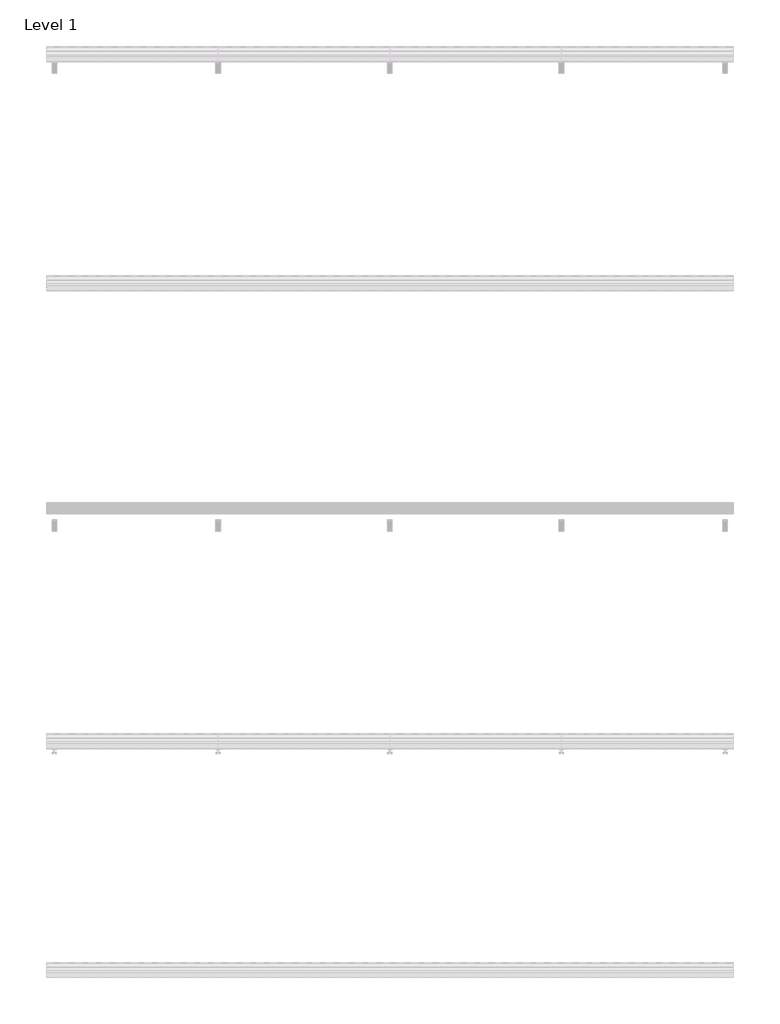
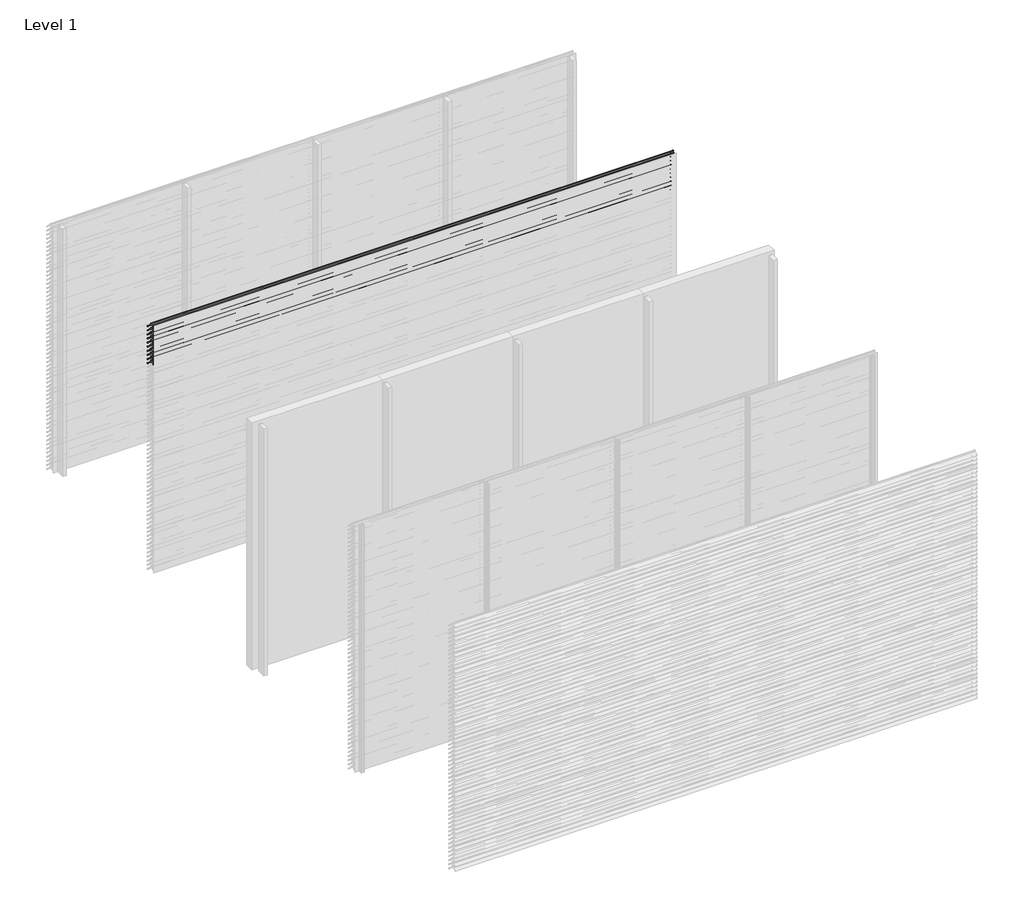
# One storey, part 54 of 173: 18 proxies.
"""IFC4 building model written with IfcOpenShell, lengths in millimetres."""

from ifc_helpers import new_model, si_unit, point, frame, frame_2d, origin, place, context, project, spatial, polyline, circle_curve, trimmed, segment, composite_curve, outline, extrude, element, save

model = new_model("IFC4")

# Units and contexts
model_context = context("Model", 3, world=origin())
ifc_project = project(units=[si_unit("LENGTHUNIT", "METRE", prefix="MILLI")], contexts=[model_context])

# Site, building, storey
site = spatial("IfcSite", under=ifc_project)
building = spatial("IfcBuilding", under=site)
storey = spatial("IfcBuildingStorey", under=building, Name="Level 1", Elevation=0.0)

# Proxies
placement = place(None, origin())
element("IfcBuildingElementProxy", 1, Name="Wall Sweeps", at=placement, inside=storey, context=model_context, shape_type="SweptSolid", body=[
    extrude(outline(composite_curve([segment(polyline([(-37998.0, 2959.1474905), (-37998.0, 2961.6227417)]), True, "CONTINUOUS"), segment(trimmed(circle_curve(frame_2d((-37951.2682172, 2916.2200208)), 65.1557103), [point((-37998.0, 2961.6227417))], [point((-37954.4014323, 2981.3003524))], False, "CARTESIAN"), True, "CONTINUOUS"), segment(polyline([(-37954.4014323, 2981.3003524), (-37934.8315836, 2981.3003524)]), True, "CONTINUOUS"), segment(trimmed(circle_curve(frame_2d((-37732.7329489, 3128.5533172)), 250.0545817), [point((-37934.8315836, 2981.3003524))], [point((-37941.4452143, 2990.8344583))], False, "CARTESIAN"), True, "CONTINUOUS"), segment(trimmed(circle_curve(frame_2d((-37953.2981792, 2985.1737835)), 13.1352966), [point((-37941.4452143, 2990.8344583))], [point((-37953.8171475, 2998.298824))], True, "CARTESIAN"), True, "CONTINUOUS"), segment(polyline([(-37953.8171475, 2998.298824), (-37953.8171475, 3000.0)]), True, "CONTINUOUS"), segment(trimmed(circle_curve(frame_2d((-37953.2981792, 2985.1737835)), 14.8352966), [point((-37953.8171475, 3000.0))], [point((-37939.9637661, 2991.6760487))], False, "CARTESIAN"), True, "CONTINUOUS"), segment(trimmed(circle_curve(frame_2d((-37732.7329489, 3128.5533172)), 248.3545817), [point((-37939.9637661, 2991.6760487))], [point((-37873.8787895, 2924.2059416))], True, "CARTESIAN"), True, "CONTINUOUS"), segment(trimmed(circle_curve(frame_2d((-37883.8147537, 2911.6649442)), 16.0), [point((-37873.8787895, 2924.2059416))], [point((-37867.8648347, 2910.4))], False, "CARTESIAN"), True, "CONTINUOUS"), segment(polyline([(-37867.8648347, 2910.4), (-37869.6712069, 2910.4)]), True, "CONTINUOUS"), segment(trimmed(circle_curve(frame_2d((-37883.8147537, 2911.6649442)), 14.2), [point((-37869.6712069, 2910.4))], [point((-37874.9518628, 2922.7594998))], True, "CARTESIAN"), True, "CONTINUOUS"), segment(trimmed(circle_curve(frame_2d((-37732.7329489, 3128.5533172)), 250.1545817), [point((-37874.9518628, 2922.7594998))], [point((-37933.7064024, 2979.6003524))], False, "CARTESIAN"), True, "CONTINUOUS"), segment(polyline([(-37933.7064024, 2979.6003524), (-37954.3602632, 2979.6003524)]), True, "CONTINUOUS"), segment(trimmed(circle_curve(frame_2d((-37951.2682172, 2916.2200208)), 63.4557103), [point((-37954.3602632, 2979.6003524))], [point((-37998.0, 2959.1474905))], True, "CARTESIAN"), True, "CONTINUOUS")], self_intersect=False)), frame((0.0, 0.0, 0.0), z_axis=(1.0, 0.0, 0.0), x_axis=(0.0, 1.0, 0.0)), (0.0, 0.0, 1.0), 6000.0),
])
element("IfcBuildingElementProxy", 2, Name="Wall Sweeps", at=placement, inside=storey, context=model_context, shape_type="SweptSolid", body=[
    extrude(outline(composite_curve([segment(polyline([(-37998.0, 2909.1474905), (-37998.0, 2911.6227417)]), True, "CONTINUOUS"), segment(trimmed(circle_curve(frame_2d((-37951.2682172, 2866.2200208)), 65.1557103), [point((-37998.0, 2911.6227417))], [point((-37954.4014323, 2931.3003524))], False, "CARTESIAN"), True, "CONTINUOUS"), segment(polyline([(-37954.4014323, 2931.3003524), (-37934.8315836, 2931.3003524)]), True, "CONTINUOUS"), segment(trimmed(circle_curve(frame_2d((-37732.7329489, 3078.5533172)), 250.0545817), [point((-37934.8315836, 2931.3003524))], [point((-37941.4452143, 2940.8344583))], False, "CARTESIAN"), True, "CONTINUOUS"), segment(trimmed(circle_curve(frame_2d((-37953.2981792, 2935.1737835)), 13.1352966), [point((-37941.4452143, 2940.8344583))], [point((-37953.8171475, 2948.298824))], True, "CARTESIAN"), True, "CONTINUOUS"), segment(polyline([(-37953.8171475, 2948.298824), (-37953.8171475, 2950.0)]), True, "CONTINUOUS"), segment(trimmed(circle_curve(frame_2d((-37953.2981792, 2935.1737835)), 14.8352966), [point((-37953.8171475, 2950.0))], [point((-37939.9637661, 2941.6760487))], False, "CARTESIAN"), True, "CONTINUOUS"), segment(trimmed(circle_curve(frame_2d((-37732.7329489, 3078.5533172)), 248.3545817), [point((-37939.9637661, 2941.6760487))], [point((-37873.8787895, 2874.2059416))], True, "CARTESIAN"), True, "CONTINUOUS"), segment(trimmed(circle_curve(frame_2d((-37883.8147537, 2861.6649442)), 16.0), [point((-37873.8787895, 2874.2059416))], [point((-37867.8648347, 2860.4))], False, "CARTESIAN"), True, "CONTINUOUS"), segment(polyline([(-37867.8648347, 2860.4), (-37869.6712069, 2860.4)]), True, "CONTINUOUS"), segment(trimmed(circle_curve(frame_2d((-37883.8147537, 2861.6649442)), 14.2), [point((-37869.6712069, 2860.4))], [point((-37874.9518628, 2872.7594998))], True, "CARTESIAN"), True, "CONTINUOUS"), segment(trimmed(circle_curve(frame_2d((-37732.7329489, 3078.5533172)), 250.1545817), [point((-37874.9518628, 2872.7594998))], [point((-37933.7064024, 2929.6003524))], False, "CARTESIAN"), True, "CONTINUOUS"), segment(polyline([(-37933.7064024, 2929.6003524), (-37954.3602632, 2929.6003524)]), True, "CONTINUOUS"), segment(trimmed(circle_curve(frame_2d((-37951.2682172, 2866.2200208)), 63.4557103), [point((-37954.3602632, 2929.6003524))], [point((-37998.0, 2909.1474905))], True, "CARTESIAN"), True, "CONTINUOUS")], self_intersect=False)), frame((0.0, 0.0, 0.0), z_axis=(1.0, 0.0, 0.0), x_axis=(0.0, 1.0, 0.0)), (0.0, 0.0, 1.0), 6000.0),
])
element("IfcBuildingElementProxy", 3, Name="Wall Sweeps", at=placement, inside=storey, context=model_context, shape_type="SweptSolid", body=[
    extrude(outline(composite_curve([segment(polyline([(-37998.0, 2859.1474905), (-37998.0, 2861.6227417)]), True, "CONTINUOUS"), segment(trimmed(circle_curve(frame_2d((-37951.2682172, 2816.2200208)), 65.1557103), [point((-37998.0, 2861.6227417))], [point((-37954.4014323, 2881.3003524))], False, "CARTESIAN"), True, "CONTINUOUS"), segment(polyline([(-37954.4014323, 2881.3003524), (-37934.8315836, 2881.3003524)]), True, "CONTINUOUS"), segment(trimmed(circle_curve(frame_2d((-37732.7329489, 3028.5533172)), 250.0545817), [point((-37934.8315836, 2881.3003524))], [point((-37941.4452143, 2890.8344583))], False, "CARTESIAN"), True, "CONTINUOUS"), segment(trimmed(circle_curve(frame_2d((-37953.2981792, 2885.1737835)), 13.1352966), [point((-37941.4452143, 2890.8344583))], [point((-37953.8171475, 2898.298824))], True, "CARTESIAN"), True, "CONTINUOUS"), segment(polyline([(-37953.8171475, 2898.298824), (-37953.8171475, 2900.0)]), True, "CONTINUOUS"), segment(trimmed(circle_curve(frame_2d((-37953.2981792, 2885.1737835)), 14.8352966), [point((-37953.8171475, 2900.0))], [point((-37939.9637661, 2891.6760487))], False, "CARTESIAN"), True, "CONTINUOUS"), segment(trimmed(circle_curve(frame_2d((-37732.7329489, 3028.5533172)), 248.3545817), [point((-37939.9637661, 2891.6760487))], [point((-37873.8787895, 2824.2059416))], True, "CARTESIAN"), True, "CONTINUOUS"), segment(trimmed(circle_curve(frame_2d((-37883.8147537, 2811.6649442)), 16.0), [point((-37873.8787895, 2824.2059416))], [point((-37867.8648347, 2810.4))], False, "CARTESIAN"), True, "CONTINUOUS"), segment(polyline([(-37867.8648347, 2810.4), (-37869.6712069, 2810.4)]), True, "CONTINUOUS"), segment(trimmed(circle_curve(frame_2d((-37883.8147537, 2811.6649442)), 14.2), [point((-37869.6712069, 2810.4))], [point((-37874.9518628, 2822.7594998))], True, "CARTESIAN"), True, "CONTINUOUS"), segment(trimmed(circle_curve(frame_2d((-37732.7329489, 3028.5533172)), 250.1545817), [point((-37874.9518628, 2822.7594998))], [point((-37933.7064024, 2879.6003524))], False, "CARTESIAN"), True, "CONTINUOUS"), segment(polyline([(-37933.7064024, 2879.6003524), (-37954.3602632, 2879.6003524)]), True, "CONTINUOUS"), segment(trimmed(circle_curve(frame_2d((-37951.2682172, 2816.2200208)), 63.4557103), [point((-37954.3602632, 2879.6003524))], [point((-37998.0, 2859.1474905))], True, "CARTESIAN"), True, "CONTINUOUS")], self_intersect=False)), frame((0.0, 0.0, 0.0), z_axis=(1.0, 0.0, 0.0), x_axis=(0.0, 1.0, 0.0)), (0.0, 0.0, 1.0), 6000.0),
])
element("IfcBuildingElementProxy", 4, Name="Wall Sweeps", at=placement, inside=storey, context=model_context, shape_type="SweptSolid", body=[
    extrude(outline(composite_curve([segment(polyline([(-37998.0, 2809.1474905), (-37998.0, 2811.6227417)]), True, "CONTINUOUS"), segment(trimmed(circle_curve(frame_2d((-37951.2682172, 2766.2200208)), 65.1557103), [point((-37998.0, 2811.6227417))], [point((-37954.4014323, 2831.3003524))], False, "CARTESIAN"), True, "CONTINUOUS"), segment(polyline([(-37954.4014323, 2831.3003524), (-37934.8315836, 2831.3003524)]), True, "CONTINUOUS"), segment(trimmed(circle_curve(frame_2d((-37732.7329489, 2978.5533172)), 250.0545817), [point((-37934.8315836, 2831.3003524))], [point((-37941.4452143, 2840.8344583))], False, "CARTESIAN"), True, "CONTINUOUS"), segment(trimmed(circle_curve(frame_2d((-37953.2981792, 2835.1737835)), 13.1352966), [point((-37941.4452143, 2840.8344583))], [point((-37953.8171475, 2848.298824))], True, "CARTESIAN"), True, "CONTINUOUS"), segment(polyline([(-37953.8171475, 2848.298824), (-37953.8171475, 2850.0)]), True, "CONTINUOUS"), segment(trimmed(circle_curve(frame_2d((-37953.2981792, 2835.1737835)), 14.8352966), [point((-37953.8171475, 2850.0))], [point((-37939.9637661, 2841.6760487))], False, "CARTESIAN"), True, "CONTINUOUS"), segment(trimmed(circle_curve(frame_2d((-37732.7329489, 2978.5533172)), 248.3545817), [point((-37939.9637661, 2841.6760487))], [point((-37873.8787895, 2774.2059416))], True, "CARTESIAN"), True, "CONTINUOUS"), segment(trimmed(circle_curve(frame_2d((-37883.8147537, 2761.6649442)), 16.0), [point((-37873.8787895, 2774.2059416))], [point((-37867.8648347, 2760.4))], False, "CARTESIAN"), True, "CONTINUOUS"), segment(polyline([(-37867.8648347, 2760.4), (-37869.6712069, 2760.4)]), True, "CONTINUOUS"), segment(trimmed(circle_curve(frame_2d((-37883.8147537, 2761.6649442)), 14.2), [point((-37869.6712069, 2760.4))], [point((-37874.9518628, 2772.7594998))], True, "CARTESIAN"), True, "CONTINUOUS"), segment(trimmed(circle_curve(frame_2d((-37732.7329489, 2978.5533172)), 250.1545817), [point((-37874.9518628, 2772.7594998))], [point((-37933.7064024, 2829.6003524))], False, "CARTESIAN"), True, "CONTINUOUS"), segment(polyline([(-37933.7064024, 2829.6003524), (-37954.3602632, 2829.6003524)]), True, "CONTINUOUS"), segment(trimmed(circle_curve(frame_2d((-37951.2682172, 2766.2200208)), 63.4557103), [point((-37954.3602632, 2829.6003524))], [point((-37998.0, 2809.1474905))], True, "CARTESIAN"), True, "CONTINUOUS")], self_intersect=False)), frame((0.0, 0.0, 0.0), z_axis=(1.0, 0.0, 0.0), x_axis=(0.0, 1.0, 0.0)), (0.0, 0.0, 1.0), 6000.0),
])
element("IfcBuildingElementProxy", 5, Name="Wall Sweeps", at=placement, inside=storey, context=model_context, shape_type="SweptSolid", body=[
    extrude(outline(composite_curve([segment(polyline([(-37998.0, 2759.1474905), (-37998.0, 2761.6227417)]), True, "CONTINUOUS"), segment(trimmed(circle_curve(frame_2d((-37951.2682172, 2716.2200208)), 65.1557103), [point((-37998.0, 2761.6227417))], [point((-37954.4014323, 2781.3003524))], False, "CARTESIAN"), True, "CONTINUOUS"), segment(polyline([(-37954.4014323, 2781.3003524), (-37934.8315836, 2781.3003524)]), True, "CONTINUOUS"), segment(trimmed(circle_curve(frame_2d((-37732.7329489, 2928.5533172)), 250.0545817), [point((-37934.8315836, 2781.3003524))], [point((-37941.4452143, 2790.8344583))], False, "CARTESIAN"), True, "CONTINUOUS"), segment(trimmed(circle_curve(frame_2d((-37953.2981792, 2785.1737835)), 13.1352966), [point((-37941.4452143, 2790.8344583))], [point((-37953.8171475, 2798.298824))], True, "CARTESIAN"), True, "CONTINUOUS"), segment(polyline([(-37953.8171475, 2798.298824), (-37953.8171475, 2800.0)]), True, "CONTINUOUS"), segment(trimmed(circle_curve(frame_2d((-37953.2981792, 2785.1737835)), 14.8352966), [point((-37953.8171475, 2800.0))], [point((-37939.9637661, 2791.6760487))], False, "CARTESIAN"), True, "CONTINUOUS"), segment(trimmed(circle_curve(frame_2d((-37732.7329489, 2928.5533172)), 248.3545817), [point((-37939.9637661, 2791.6760487))], [point((-37873.8787895, 2724.2059416))], True, "CARTESIAN"), True, "CONTINUOUS"), segment(trimmed(circle_curve(frame_2d((-37883.8147537, 2711.6649442)), 16.0), [point((-37873.8787895, 2724.2059416))], [point((-37867.8648347, 2710.4))], False, "CARTESIAN"), True, "CONTINUOUS"), segment(polyline([(-37867.8648347, 2710.4), (-37869.6712069, 2710.4)]), True, "CONTINUOUS"), segment(trimmed(circle_curve(frame_2d((-37883.8147537, 2711.6649442)), 14.2), [point((-37869.6712069, 2710.4))], [point((-37874.9518628, 2722.7594998))], True, "CARTESIAN"), True, "CONTINUOUS"), segment(trimmed(circle_curve(frame_2d((-37732.7329489, 2928.5533172)), 250.1545817), [point((-37874.9518628, 2722.7594998))], [point((-37933.7064024, 2779.6003524))], False, "CARTESIAN"), True, "CONTINUOUS"), segment(polyline([(-37933.7064024, 2779.6003524), (-37954.3602632, 2779.6003524)]), True, "CONTINUOUS"), segment(trimmed(circle_curve(frame_2d((-37951.2682172, 2716.2200208)), 63.4557103), [point((-37954.3602632, 2779.6003524))], [point((-37998.0, 2759.1474905))], True, "CARTESIAN"), True, "CONTINUOUS")], self_intersect=False)), frame((0.0, 0.0, 0.0), z_axis=(1.0, 0.0, 0.0), x_axis=(0.0, 1.0, 0.0)), (0.0, 0.0, 1.0), 6000.0),
])
element("IfcBuildingElementProxy", 6, Name="Wall Sweeps", at=placement, inside=storey, context=model_context, shape_type="SweptSolid", body=[
    extrude(outline(composite_curve([segment(polyline([(-37998.0, 2709.1474905), (-37998.0, 2711.6227417)]), True, "CONTINUOUS"), segment(trimmed(circle_curve(frame_2d((-37951.2682172, 2666.2200208)), 65.1557103), [point((-37998.0, 2711.6227417))], [point((-37954.4014323, 2731.3003524))], False, "CARTESIAN"), True, "CONTINUOUS"), segment(polyline([(-37954.4014323, 2731.3003524), (-37934.8315836, 2731.3003524)]), True, "CONTINUOUS"), segment(trimmed(circle_curve(frame_2d((-37732.7329489, 2878.5533172)), 250.0545817), [point((-37934.8315836, 2731.3003524))], [point((-37941.4452143, 2740.8344583))], False, "CARTESIAN"), True, "CONTINUOUS"), segment(trimmed(circle_curve(frame_2d((-37953.2981792, 2735.1737835)), 13.1352966), [point((-37941.4452143, 2740.8344583))], [point((-37953.8171475, 2748.298824))], True, "CARTESIAN"), True, "CONTINUOUS"), segment(polyline([(-37953.8171475, 2748.298824), (-37953.8171475, 2750.0)]), True, "CONTINUOUS"), segment(trimmed(circle_curve(frame_2d((-37953.2981792, 2735.1737835)), 14.8352966), [point((-37953.8171475, 2750.0))], [point((-37939.9637661, 2741.6760487))], False, "CARTESIAN"), True, "CONTINUOUS"), segment(trimmed(circle_curve(frame_2d((-37732.7329489, 2878.5533172)), 248.3545817), [point((-37939.9637661, 2741.6760487))], [point((-37873.8787895, 2674.2059416))], True, "CARTESIAN"), True, "CONTINUOUS"), segment(trimmed(circle_curve(frame_2d((-37883.8147537, 2661.6649442)), 16.0), [point((-37873.8787895, 2674.2059416))], [point((-37867.8648347, 2660.4))], False, "CARTESIAN"), True, "CONTINUOUS"), segment(polyline([(-37867.8648347, 2660.4), (-37869.6712069, 2660.4)]), True, "CONTINUOUS"), segment(trimmed(circle_curve(frame_2d((-37883.8147537, 2661.6649442)), 14.2), [point((-37869.6712069, 2660.4))], [point((-37874.9518628, 2672.7594998))], True, "CARTESIAN"), True, "CONTINUOUS"), segment(trimmed(circle_curve(frame_2d((-37732.7329489, 2878.5533172)), 250.1545817), [point((-37874.9518628, 2672.7594998))], [point((-37933.7064024, 2729.6003524))], False, "CARTESIAN"), True, "CONTINUOUS"), segment(polyline([(-37933.7064024, 2729.6003524), (-37954.3602632, 2729.6003524)]), True, "CONTINUOUS"), segment(trimmed(circle_curve(frame_2d((-37951.2682172, 2666.2200208)), 63.4557103), [point((-37954.3602632, 2729.6003524))], [point((-37998.0, 2709.1474905))], True, "CARTESIAN"), True, "CONTINUOUS")], self_intersect=False)), frame((0.0, 0.0, 0.0), z_axis=(1.0, 0.0, 0.0), x_axis=(0.0, 1.0, 0.0)), (0.0, 0.0, 1.0), 6000.0),
])
element("IfcBuildingElementProxy", 7, Name="Wall Sweeps", at=placement, inside=storey, context=model_context, shape_type="SweptSolid", body=[
    extrude(outline(composite_curve([segment(polyline([(-37998.0, 2659.1474905), (-37998.0, 2661.6227417)]), True, "CONTINUOUS"), segment(trimmed(circle_curve(frame_2d((-37951.2682172, 2616.2200208)), 65.1557103), [point((-37998.0, 2661.6227417))], [point((-37954.4014323, 2681.3003524))], False, "CARTESIAN"), True, "CONTINUOUS"), segment(polyline([(-37954.4014323, 2681.3003524), (-37934.8315836, 2681.3003524)]), True, "CONTINUOUS"), segment(trimmed(circle_curve(frame_2d((-37732.7329489, 2828.5533172)), 250.0545817), [point((-37934.8315836, 2681.3003524))], [point((-37941.4452143, 2690.8344583))], False, "CARTESIAN"), True, "CONTINUOUS"), segment(trimmed(circle_curve(frame_2d((-37953.2981792, 2685.1737835)), 13.1352966), [point((-37941.4452143, 2690.8344583))], [point((-37953.8171475, 2698.298824))], True, "CARTESIAN"), True, "CONTINUOUS"), segment(polyline([(-37953.8171475, 2698.298824), (-37953.8171475, 2700.0)]), True, "CONTINUOUS"), segment(trimmed(circle_curve(frame_2d((-37953.2981792, 2685.1737835)), 14.8352966), [point((-37953.8171475, 2700.0))], [point((-37939.9637661, 2691.6760487))], False, "CARTESIAN"), True, "CONTINUOUS"), segment(trimmed(circle_curve(frame_2d((-37732.7329489, 2828.5533172)), 248.3545817), [point((-37939.9637661, 2691.6760487))], [point((-37873.8787895, 2624.2059416))], True, "CARTESIAN"), True, "CONTINUOUS"), segment(trimmed(circle_curve(frame_2d((-37883.8147537, 2611.6649442)), 16.0), [point((-37873.8787895, 2624.2059416))], [point((-37867.8648347, 2610.4))], False, "CARTESIAN"), True, "CONTINUOUS"), segment(polyline([(-37867.8648347, 2610.4), (-37869.6712069, 2610.4)]), True, "CONTINUOUS"), segment(trimmed(circle_curve(frame_2d((-37883.8147537, 2611.6649442)), 14.2), [point((-37869.6712069, 2610.4))], [point((-37874.9518628, 2622.7594998))], True, "CARTESIAN"), True, "CONTINUOUS"), segment(trimmed(circle_curve(frame_2d((-37732.7329489, 2828.5533172)), 250.1545817), [point((-37874.9518628, 2622.7594998))], [point((-37933.7064024, 2679.6003524))], False, "CARTESIAN"), True, "CONTINUOUS"), segment(polyline([(-37933.7064024, 2679.6003524), (-37954.3602632, 2679.6003524)]), True, "CONTINUOUS"), segment(trimmed(circle_curve(frame_2d((-37951.2682172, 2616.2200208)), 63.4557103), [point((-37954.3602632, 2679.6003524))], [point((-37998.0, 2659.1474905))], True, "CARTESIAN"), True, "CONTINUOUS")], self_intersect=False)), frame((0.0, 0.0, 0.0), z_axis=(1.0, 0.0, 0.0), x_axis=(0.0, 1.0, 0.0)), (0.0, 0.0, 1.0), 6000.0),
])
element("IfcBuildingElementProxy", 8, Name="Wall Sweeps", at=placement, inside=storey, context=model_context, shape_type="SweptSolid", body=[
    extrude(outline(composite_curve([segment(polyline([(-37998.0, 2609.1474905), (-37998.0, 2611.6227417)]), True, "CONTINUOUS"), segment(trimmed(circle_curve(frame_2d((-37951.2682172, 2566.2200208)), 65.1557103), [point((-37998.0, 2611.6227417))], [point((-37954.4014323, 2631.3003524))], False, "CARTESIAN"), True, "CONTINUOUS"), segment(polyline([(-37954.4014323, 2631.3003524), (-37934.8315836, 2631.3003524)]), True, "CONTINUOUS"), segment(trimmed(circle_curve(frame_2d((-37732.7329489, 2778.5533172)), 250.0545817), [point((-37934.8315836, 2631.3003524))], [point((-37941.4452143, 2640.8344583))], False, "CARTESIAN"), True, "CONTINUOUS"), segment(trimmed(circle_curve(frame_2d((-37953.2981792, 2635.1737835)), 13.1352966), [point((-37941.4452143, 2640.8344583))], [point((-37953.8171475, 2648.298824))], True, "CARTESIAN"), True, "CONTINUOUS"), segment(polyline([(-37953.8171475, 2648.298824), (-37953.8171475, 2650.0)]), True, "CONTINUOUS"), segment(trimmed(circle_curve(frame_2d((-37953.2981792, 2635.1737835)), 14.8352966), [point((-37953.8171475, 2650.0))], [point((-37939.9637661, 2641.6760487))], False, "CARTESIAN"), True, "CONTINUOUS"), segment(trimmed(circle_curve(frame_2d((-37732.7329489, 2778.5533172)), 248.3545817), [point((-37939.9637661, 2641.6760487))], [point((-37873.8787895, 2574.2059416))], True, "CARTESIAN"), True, "CONTINUOUS"), segment(trimmed(circle_curve(frame_2d((-37883.8147537, 2561.6649442)), 16.0), [point((-37873.8787895, 2574.2059416))], [point((-37867.8648347, 2560.4))], False, "CARTESIAN"), True, "CONTINUOUS"), segment(polyline([(-37867.8648347, 2560.4), (-37869.6712069, 2560.4)]), True, "CONTINUOUS"), segment(trimmed(circle_curve(frame_2d((-37883.8147537, 2561.6649442)), 14.2), [point((-37869.6712069, 2560.4))], [point((-37874.9518628, 2572.7594998))], True, "CARTESIAN"), True, "CONTINUOUS"), segment(trimmed(circle_curve(frame_2d((-37732.7329489, 2778.5533172)), 250.1545817), [point((-37874.9518628, 2572.7594998))], [point((-37933.7064024, 2629.6003524))], False, "CARTESIAN"), True, "CONTINUOUS"), segment(polyline([(-37933.7064024, 2629.6003524), (-37954.3602632, 2629.6003524)]), True, "CONTINUOUS"), segment(trimmed(circle_curve(frame_2d((-37951.2682172, 2566.2200208)), 63.4557103), [point((-37954.3602632, 2629.6003524))], [point((-37998.0, 2609.1474905))], True, "CARTESIAN"), True, "CONTINUOUS")], self_intersect=False)), frame((0.0, 0.0, 0.0), z_axis=(1.0, 0.0, 0.0), x_axis=(0.0, 1.0, 0.0)), (0.0, 0.0, 1.0), 6000.0),
])
element("IfcBuildingElementProxy", 9, Name="Wall Sweeps", at=placement, inside=storey, context=model_context, shape_type="SweptSolid", body=[
    extrude(outline(composite_curve([segment(polyline([(-37998.0, 2559.1474905), (-37998.0, 2561.6227417)]), True, "CONTINUOUS"), segment(trimmed(circle_curve(frame_2d((-37951.2682172, 2516.2200208)), 65.1557103), [point((-37998.0, 2561.6227417))], [point((-37954.4014323, 2581.3003524))], False, "CARTESIAN"), True, "CONTINUOUS"), segment(polyline([(-37954.4014323, 2581.3003524), (-37934.8315836, 2581.3003524)]), True, "CONTINUOUS"), segment(trimmed(circle_curve(frame_2d((-37732.7329489, 2728.5533172)), 250.0545817), [point((-37934.8315836, 2581.3003524))], [point((-37941.4452143, 2590.8344583))], False, "CARTESIAN"), True, "CONTINUOUS"), segment(trimmed(circle_curve(frame_2d((-37953.2981792, 2585.1737835)), 13.1352966), [point((-37941.4452143, 2590.8344583))], [point((-37953.8171475, 2598.298824))], True, "CARTESIAN"), True, "CONTINUOUS"), segment(polyline([(-37953.8171475, 2598.298824), (-37953.8171475, 2600.0)]), True, "CONTINUOUS"), segment(trimmed(circle_curve(frame_2d((-37953.2981792, 2585.1737835)), 14.8352966), [point((-37953.8171475, 2600.0))], [point((-37939.9637661, 2591.6760487))], False, "CARTESIAN"), True, "CONTINUOUS"), segment(trimmed(circle_curve(frame_2d((-37732.7329489, 2728.5533172)), 248.3545817), [point((-37939.9637661, 2591.6760487))], [point((-37873.8787895, 2524.2059416))], True, "CARTESIAN"), True, "CONTINUOUS"), segment(trimmed(circle_curve(frame_2d((-37883.8147537, 2511.6649442)), 16.0), [point((-37873.8787895, 2524.2059416))], [point((-37867.8648347, 2510.4))], False, "CARTESIAN"), True, "CONTINUOUS"), segment(polyline([(-37867.8648347, 2510.4), (-37869.6712069, 2510.4)]), True, "CONTINUOUS"), segment(trimmed(circle_curve(frame_2d((-37883.8147537, 2511.6649442)), 14.2), [point((-37869.6712069, 2510.4))], [point((-37874.9518628, 2522.7594998))], True, "CARTESIAN"), True, "CONTINUOUS"), segment(trimmed(circle_curve(frame_2d((-37732.7329489, 2728.5533172)), 250.1545817), [point((-37874.9518628, 2522.7594998))], [point((-37933.7064024, 2579.6003524))], False, "CARTESIAN"), True, "CONTINUOUS"), segment(polyline([(-37933.7064024, 2579.6003524), (-37954.3602632, 2579.6003524)]), True, "CONTINUOUS"), segment(trimmed(circle_curve(frame_2d((-37951.2682172, 2516.2200208)), 63.4557103), [point((-37954.3602632, 2579.6003524))], [point((-37998.0, 2559.1474905))], True, "CARTESIAN"), True, "CONTINUOUS")], self_intersect=False)), frame((0.0, 0.0, 0.0), z_axis=(1.0, 0.0, 0.0), x_axis=(0.0, 1.0, 0.0)), (0.0, 0.0, 1.0), 6000.0),
])
element("IfcBuildingElementProxy", 10, Name="Wall Sweeps", at=placement, inside=storey, context=model_context, shape_type="SweptSolid", body=[
    extrude(outline(composite_curve([segment(polyline([(-37998.0, 2509.1474905), (-37998.0, 2511.6227417)]), True, "CONTINUOUS"), segment(trimmed(circle_curve(frame_2d((-37951.2682172, 2466.2200208)), 65.1557103), [point((-37998.0, 2511.6227417))], [point((-37954.4014323, 2531.3003524))], False, "CARTESIAN"), True, "CONTINUOUS"), segment(polyline([(-37954.4014323, 2531.3003524), (-37934.8315836, 2531.3003524)]), True, "CONTINUOUS"), segment(trimmed(circle_curve(frame_2d((-37732.7329489, 2678.5533172)), 250.0545817), [point((-37934.8315836, 2531.3003524))], [point((-37941.4452143, 2540.8344583))], False, "CARTESIAN"), True, "CONTINUOUS"), segment(trimmed(circle_curve(frame_2d((-37953.2981792, 2535.1737835)), 13.1352966), [point((-37941.4452143, 2540.8344583))], [point((-37953.8171475, 2548.298824))], True, "CARTESIAN"), True, "CONTINUOUS"), segment(polyline([(-37953.8171475, 2548.298824), (-37953.8171475, 2550.0)]), True, "CONTINUOUS"), segment(trimmed(circle_curve(frame_2d((-37953.2981792, 2535.1737835)), 14.8352966), [point((-37953.8171475, 2550.0))], [point((-37939.9637661, 2541.6760487))], False, "CARTESIAN"), True, "CONTINUOUS"), segment(trimmed(circle_curve(frame_2d((-37732.7329489, 2678.5533172)), 248.3545817), [point((-37939.9637661, 2541.6760487))], [point((-37873.8787895, 2474.2059416))], True, "CARTESIAN"), True, "CONTINUOUS"), segment(trimmed(circle_curve(frame_2d((-37883.8147537, 2461.6649442)), 16.0), [point((-37873.8787895, 2474.2059416))], [point((-37867.8648347, 2460.4))], False, "CARTESIAN"), True, "CONTINUOUS"), segment(polyline([(-37867.8648347, 2460.4), (-37869.6712069, 2460.4)]), True, "CONTINUOUS"), segment(trimmed(circle_curve(frame_2d((-37883.8147537, 2461.6649442)), 14.2), [point((-37869.6712069, 2460.4))], [point((-37874.9518628, 2472.7594998))], True, "CARTESIAN"), True, "CONTINUOUS"), segment(trimmed(circle_curve(frame_2d((-37732.7329489, 2678.5533172)), 250.1545817), [point((-37874.9518628, 2472.7594998))], [point((-37933.7064024, 2529.6003524))], False, "CARTESIAN"), True, "CONTINUOUS"), segment(polyline([(-37933.7064024, 2529.6003524), (-37954.3602632, 2529.6003524)]), True, "CONTINUOUS"), segment(trimmed(circle_curve(frame_2d((-37951.2682172, 2466.2200208)), 63.4557103), [point((-37954.3602632, 2529.6003524))], [point((-37998.0, 2509.1474905))], True, "CARTESIAN"), True, "CONTINUOUS")], self_intersect=False)), frame((0.0, 0.0, 0.0), z_axis=(1.0, 0.0, 0.0), x_axis=(0.0, 1.0, 0.0)), (0.0, 0.0, 1.0), 6000.0),
])
element("IfcBuildingElementProxy", 11, Name="Wall Sweeps", at=placement, inside=storey, context=model_context, shape_type="SweptSolid", body=[
    extrude(outline(composite_curve([segment(polyline([(-41998.0, 359.1474905), (-41998.0, 361.6227417)]), True, "CONTINUOUS"), segment(trimmed(circle_curve(frame_2d((-41951.2682172, 316.2200208)), 65.1557103), [point((-41998.0, 361.6227417))], [point((-41954.4014323, 381.3003524))], False, "CARTESIAN"), True, "CONTINUOUS"), segment(polyline([(-41954.4014323, 381.3003524), (-41934.8315836, 381.3003524)]), True, "CONTINUOUS"), segment(trimmed(circle_curve(frame_2d((-41732.7329489, 528.5533172)), 250.0545817), [point((-41934.8315836, 381.3003524))], [point((-41941.4452143, 390.8344583))], False, "CARTESIAN"), True, "CONTINUOUS"), segment(trimmed(circle_curve(frame_2d((-41953.2981792, 385.1737835)), 13.1352966), [point((-41941.4452143, 390.8344583))], [point((-41953.8171475, 398.298824))], True, "CARTESIAN"), True, "CONTINUOUS"), segment(polyline([(-41953.8171475, 398.298824), (-41953.8171475, 400.0)]), True, "CONTINUOUS"), segment(trimmed(circle_curve(frame_2d((-41953.2981792, 385.1737835)), 14.8352966), [point((-41953.8171475, 400.0))], [point((-41939.9637661, 391.6760487))], False, "CARTESIAN"), True, "CONTINUOUS"), segment(trimmed(circle_curve(frame_2d((-41732.7329489, 528.5533172)), 248.3545817), [point((-41939.9637661, 391.6760487))], [point((-41873.8787895, 324.2059416))], True, "CARTESIAN"), True, "CONTINUOUS"), segment(trimmed(circle_curve(frame_2d((-41883.8147537, 311.6649442)), 16.0), [point((-41873.8787895, 324.2059416))], [point((-41867.8648347, 310.4))], False, "CARTESIAN"), True, "CONTINUOUS"), segment(polyline([(-41867.8648347, 310.4), (-41869.6712069, 310.4)]), True, "CONTINUOUS"), segment(trimmed(circle_curve(frame_2d((-41883.8147537, 311.6649442)), 14.2), [point((-41869.6712069, 310.4))], [point((-41874.9518628, 322.7594998))], True, "CARTESIAN"), True, "CONTINUOUS"), segment(trimmed(circle_curve(frame_2d((-41732.7329489, 528.5533172)), 250.1545817), [point((-41874.9518628, 322.7594998))], [point((-41933.7064024, 379.6003524))], False, "CARTESIAN"), True, "CONTINUOUS"), segment(polyline([(-41933.7064024, 379.6003524), (-41954.3602632, 379.6003524)]), True, "CONTINUOUS"), segment(trimmed(circle_curve(frame_2d((-41951.2682172, 316.2200208)), 63.4557103), [point((-41954.3602632, 379.6003524))], [point((-41998.0, 359.1474905))], True, "CARTESIAN"), True, "CONTINUOUS")], self_intersect=False)), frame((4500.0, 0.0, 0.0), z_axis=(1.0, 0.0, 0.0), x_axis=(0.0, 1.0, 0.0)), (0.0, 0.0, 1.0), 1500.0),
])
element("IfcBuildingElementProxy", 12, Name="Wall Sweeps", at=placement, inside=storey, context=model_context, shape_type="SweptSolid", body=[
    extrude(outline(composite_curve([segment(polyline([(-41998.0, 309.1474905), (-41998.0, 311.6227417)]), True, "CONTINUOUS"), segment(trimmed(circle_curve(frame_2d((-41951.2682172, 266.2200208)), 65.1557103), [point((-41998.0, 311.6227417))], [point((-41954.4014323, 331.3003524))], False, "CARTESIAN"), True, "CONTINUOUS"), segment(polyline([(-41954.4014323, 331.3003524), (-41934.8315836, 331.3003524)]), True, "CONTINUOUS"), segment(trimmed(circle_curve(frame_2d((-41732.7329489, 478.5533172)), 250.0545817), [point((-41934.8315836, 331.3003524))], [point((-41941.4452143, 340.8344583))], False, "CARTESIAN"), True, "CONTINUOUS"), segment(trimmed(circle_curve(frame_2d((-41953.2981792, 335.1737835)), 13.1352966), [point((-41941.4452143, 340.8344583))], [point((-41953.8171475, 348.298824))], True, "CARTESIAN"), True, "CONTINUOUS"), segment(polyline([(-41953.8171475, 348.298824), (-41953.8171475, 350.0)]), True, "CONTINUOUS"), segment(trimmed(circle_curve(frame_2d((-41953.2981792, 335.1737835)), 14.8352966), [point((-41953.8171475, 350.0))], [point((-41939.9637661, 341.6760487))], False, "CARTESIAN"), True, "CONTINUOUS"), segment(trimmed(circle_curve(frame_2d((-41732.7329489, 478.5533172)), 248.3545817), [point((-41939.9637661, 341.6760487))], [point((-41873.8787895, 274.2059416))], True, "CARTESIAN"), True, "CONTINUOUS"), segment(trimmed(circle_curve(frame_2d((-41883.8147537, 261.6649442)), 16.0), [point((-41873.8787895, 274.2059416))], [point((-41867.8648347, 260.4))], False, "CARTESIAN"), True, "CONTINUOUS"), segment(polyline([(-41867.8648347, 260.4), (-41869.6712069, 260.4)]), True, "CONTINUOUS"), segment(trimmed(circle_curve(frame_2d((-41883.8147537, 261.6649442)), 14.2), [point((-41869.6712069, 260.4))], [point((-41874.9518628, 272.7594998))], True, "CARTESIAN"), True, "CONTINUOUS"), segment(trimmed(circle_curve(frame_2d((-41732.7329489, 478.5533172)), 250.1545817), [point((-41874.9518628, 272.7594998))], [point((-41933.7064024, 329.6003524))], False, "CARTESIAN"), True, "CONTINUOUS"), segment(polyline([(-41933.7064024, 329.6003524), (-41954.3602632, 329.6003524)]), True, "CONTINUOUS"), segment(trimmed(circle_curve(frame_2d((-41951.2682172, 266.2200208)), 63.4557103), [point((-41954.3602632, 329.6003524))], [point((-41998.0, 309.1474905))], True, "CARTESIAN"), True, "CONTINUOUS")], self_intersect=False)), frame((4500.0, 0.0, 0.0), z_axis=(1.0, 0.0, 0.0), x_axis=(0.0, 1.0, 0.0)), (0.0, 0.0, 1.0), 1500.0),
])
element("IfcBuildingElementProxy", 13, Name="Wall Sweeps", at=placement, inside=storey, context=model_context, shape_type="SweptSolid", body=[
    extrude(outline(composite_curve([segment(polyline([(-41998.0, 259.1474905), (-41998.0, 261.6227417)]), True, "CONTINUOUS"), segment(trimmed(circle_curve(frame_2d((-41951.2682172, 216.2200208)), 65.1557103), [point((-41998.0, 261.6227417))], [point((-41954.4014323, 281.3003524))], False, "CARTESIAN"), True, "CONTINUOUS"), segment(polyline([(-41954.4014323, 281.3003524), (-41934.8315836, 281.3003524)]), True, "CONTINUOUS"), segment(trimmed(circle_curve(frame_2d((-41732.7329489, 428.5533172)), 250.0545817), [point((-41934.8315836, 281.3003524))], [point((-41941.4452143, 290.8344583))], False, "CARTESIAN"), True, "CONTINUOUS"), segment(trimmed(circle_curve(frame_2d((-41953.2981792, 285.1737835)), 13.1352966), [point((-41941.4452143, 290.8344583))], [point((-41953.8171475, 298.298824))], True, "CARTESIAN"), True, "CONTINUOUS"), segment(polyline([(-41953.8171475, 298.298824), (-41953.8171475, 300.0)]), True, "CONTINUOUS"), segment(trimmed(circle_curve(frame_2d((-41953.2981792, 285.1737835)), 14.8352966), [point((-41953.8171475, 300.0))], [point((-41939.9637661, 291.6760487))], False, "CARTESIAN"), True, "CONTINUOUS"), segment(trimmed(circle_curve(frame_2d((-41732.7329489, 428.5533172)), 248.3545817), [point((-41939.9637661, 291.6760487))], [point((-41873.8787895, 224.2059416))], True, "CARTESIAN"), True, "CONTINUOUS"), segment(trimmed(circle_curve(frame_2d((-41883.8147537, 211.6649442)), 16.0), [point((-41873.8787895, 224.2059416))], [point((-41867.8648347, 210.4))], False, "CARTESIAN"), True, "CONTINUOUS"), segment(polyline([(-41867.8648347, 210.4), (-41869.6712069, 210.4)]), True, "CONTINUOUS"), segment(trimmed(circle_curve(frame_2d((-41883.8147537, 211.6649442)), 14.2), [point((-41869.6712069, 210.4))], [point((-41874.9518628, 222.7594998))], True, "CARTESIAN"), True, "CONTINUOUS"), segment(trimmed(circle_curve(frame_2d((-41732.7329489, 428.5533172)), 250.1545817), [point((-41874.9518628, 222.7594998))], [point((-41933.7064024, 279.6003524))], False, "CARTESIAN"), True, "CONTINUOUS"), segment(polyline([(-41933.7064024, 279.6003524), (-41954.3602632, 279.6003524)]), True, "CONTINUOUS"), segment(trimmed(circle_curve(frame_2d((-41951.2682172, 216.2200208)), 63.4557103), [point((-41954.3602632, 279.6003524))], [point((-41998.0, 259.1474905))], True, "CARTESIAN"), True, "CONTINUOUS")], self_intersect=False)), frame((4500.0, 0.0, 0.0), z_axis=(1.0, 0.0, 0.0), x_axis=(0.0, 1.0, 0.0)), (0.0, 0.0, 1.0), 1500.0),
])
element("IfcBuildingElementProxy", 14, Name="Wall Sweeps", at=placement, inside=storey, context=model_context, shape_type="SweptSolid", body=[
    extrude(outline(composite_curve([segment(polyline([(-41998.0, 209.1474905), (-41998.0, 211.6227417)]), True, "CONTINUOUS"), segment(trimmed(circle_curve(frame_2d((-41951.2682172, 166.2200208)), 65.1557103), [point((-41998.0, 211.6227417))], [point((-41954.4014323, 231.3003524))], False, "CARTESIAN"), True, "CONTINUOUS"), segment(polyline([(-41954.4014323, 231.3003524), (-41934.8315836, 231.3003524)]), True, "CONTINUOUS"), segment(trimmed(circle_curve(frame_2d((-41732.7329489, 378.5533172)), 250.0545817), [point((-41934.8315836, 231.3003524))], [point((-41941.4452143, 240.8344583))], False, "CARTESIAN"), True, "CONTINUOUS"), segment(trimmed(circle_curve(frame_2d((-41953.2981792, 235.1737835)), 13.1352966), [point((-41941.4452143, 240.8344583))], [point((-41953.8171475, 248.298824))], True, "CARTESIAN"), True, "CONTINUOUS"), segment(polyline([(-41953.8171475, 248.298824), (-41953.8171475, 250.0)]), True, "CONTINUOUS"), segment(trimmed(circle_curve(frame_2d((-41953.2981792, 235.1737835)), 14.8352966), [point((-41953.8171475, 250.0))], [point((-41939.9637661, 241.6760487))], False, "CARTESIAN"), True, "CONTINUOUS"), segment(trimmed(circle_curve(frame_2d((-41732.7329489, 378.5533172)), 248.3545817), [point((-41939.9637661, 241.6760487))], [point((-41873.8787895, 174.2059416))], True, "CARTESIAN"), True, "CONTINUOUS"), segment(trimmed(circle_curve(frame_2d((-41883.8147537, 161.6649442)), 16.0), [point((-41873.8787895, 174.2059416))], [point((-41867.8648347, 160.4))], False, "CARTESIAN"), True, "CONTINUOUS"), segment(polyline([(-41867.8648347, 160.4), (-41869.6712069, 160.4)]), True, "CONTINUOUS"), segment(trimmed(circle_curve(frame_2d((-41883.8147537, 161.6649442)), 14.2), [point((-41869.6712069, 160.4))], [point((-41874.9518628, 172.7594998))], True, "CARTESIAN"), True, "CONTINUOUS"), segment(trimmed(circle_curve(frame_2d((-41732.7329489, 378.5533172)), 250.1545817), [point((-41874.9518628, 172.7594998))], [point((-41933.7064024, 229.6003524))], False, "CARTESIAN"), True, "CONTINUOUS"), segment(polyline([(-41933.7064024, 229.6003524), (-41954.3602632, 229.6003524)]), True, "CONTINUOUS"), segment(trimmed(circle_curve(frame_2d((-41951.2682172, 166.2200208)), 63.4557103), [point((-41954.3602632, 229.6003524))], [point((-41998.0, 209.1474905))], True, "CARTESIAN"), True, "CONTINUOUS")], self_intersect=False)), frame((4500.0, 0.0, 0.0), z_axis=(1.0, 0.0, 0.0), x_axis=(0.0, 1.0, 0.0)), (0.0, 0.0, 1.0), 1500.0),
])
element("IfcBuildingElementProxy", 15, Name="Wall Sweeps", at=placement, inside=storey, context=model_context, shape_type="SweptSolid", body=[
    extrude(outline(composite_curve([segment(polyline([(-41998.0, 159.1474905), (-41998.0, 161.6227417)]), True, "CONTINUOUS"), segment(trimmed(circle_curve(frame_2d((-41951.2682172, 116.2200208)), 65.1557103), [point((-41998.0, 161.6227417))], [point((-41954.4014323, 181.3003524))], False, "CARTESIAN"), True, "CONTINUOUS"), segment(polyline([(-41954.4014323, 181.3003524), (-41934.8315836, 181.3003524)]), True, "CONTINUOUS"), segment(trimmed(circle_curve(frame_2d((-41732.7329489, 328.5533172)), 250.0545817), [point((-41934.8315836, 181.3003524))], [point((-41941.4452143, 190.8344583))], False, "CARTESIAN"), True, "CONTINUOUS"), segment(trimmed(circle_curve(frame_2d((-41953.2981792, 185.1737835)), 13.1352966), [point((-41941.4452143, 190.8344583))], [point((-41953.8171475, 198.298824))], True, "CARTESIAN"), True, "CONTINUOUS"), segment(polyline([(-41953.8171475, 198.298824), (-41953.8171475, 200.0)]), True, "CONTINUOUS"), segment(trimmed(circle_curve(frame_2d((-41953.2981792, 185.1737835)), 14.8352966), [point((-41953.8171475, 200.0))], [point((-41939.9637661, 191.6760487))], False, "CARTESIAN"), True, "CONTINUOUS"), segment(trimmed(circle_curve(frame_2d((-41732.7329489, 328.5533172)), 248.3545817), [point((-41939.9637661, 191.6760487))], [point((-41873.8787895, 124.2059416))], True, "CARTESIAN"), True, "CONTINUOUS"), segment(trimmed(circle_curve(frame_2d((-41883.8147537, 111.6649442)), 16.0), [point((-41873.8787895, 124.2059416))], [point((-41867.8648347, 110.4))], False, "CARTESIAN"), True, "CONTINUOUS"), segment(polyline([(-41867.8648347, 110.4), (-41869.6712069, 110.4)]), True, "CONTINUOUS"), segment(trimmed(circle_curve(frame_2d((-41883.8147537, 111.6649442)), 14.2), [point((-41869.6712069, 110.4))], [point((-41874.9518628, 122.7594998))], True, "CARTESIAN"), True, "CONTINUOUS"), segment(trimmed(circle_curve(frame_2d((-41732.7329489, 328.5533172)), 250.1545817), [point((-41874.9518628, 122.7594998))], [point((-41933.7064024, 179.6003524))], False, "CARTESIAN"), True, "CONTINUOUS"), segment(polyline([(-41933.7064024, 179.6003524), (-41954.3602632, 179.6003524)]), True, "CONTINUOUS"), segment(trimmed(circle_curve(frame_2d((-41951.2682172, 116.2200208)), 63.4557103), [point((-41954.3602632, 179.6003524))], [point((-41998.0, 159.1474905))], True, "CARTESIAN"), True, "CONTINUOUS")], self_intersect=False)), frame((4500.0, 0.0, 0.0), z_axis=(1.0, 0.0, 0.0), x_axis=(0.0, 1.0, 0.0)), (0.0, 0.0, 1.0), 1500.0),
])
element("IfcBuildingElementProxy", 16, Name="Wall Sweeps", at=placement, inside=storey, context=model_context, shape_type="SweptSolid", body=[
    extrude(outline(composite_curve([segment(polyline([(-41998.0, 109.1474905), (-41998.0, 111.6227417)]), True, "CONTINUOUS"), segment(trimmed(circle_curve(frame_2d((-41951.2682172, 66.2200208)), 65.1557103), [point((-41998.0, 111.6227417))], [point((-41954.4014323, 131.3003524))], False, "CARTESIAN"), True, "CONTINUOUS"), segment(polyline([(-41954.4014323, 131.3003524), (-41934.8315836, 131.3003524)]), True, "CONTINUOUS"), segment(trimmed(circle_curve(frame_2d((-41732.7329489, 278.5533172)), 250.0545817), [point((-41934.8315836, 131.3003524))], [point((-41941.4452143, 140.8344583))], False, "CARTESIAN"), True, "CONTINUOUS"), segment(trimmed(circle_curve(frame_2d((-41953.2981792, 135.1737835)), 13.1352966), [point((-41941.4452143, 140.8344583))], [point((-41953.8171475, 148.298824))], True, "CARTESIAN"), True, "CONTINUOUS"), segment(polyline([(-41953.8171475, 148.298824), (-41953.8171475, 150.0)]), True, "CONTINUOUS"), segment(trimmed(circle_curve(frame_2d((-41953.2981792, 135.1737835)), 14.8352966), [point((-41953.8171475, 150.0))], [point((-41939.9637661, 141.6760487))], False, "CARTESIAN"), True, "CONTINUOUS"), segment(trimmed(circle_curve(frame_2d((-41732.7329489, 278.5533172)), 248.3545817), [point((-41939.9637661, 141.6760487))], [point((-41873.8787895, 74.2059416))], True, "CARTESIAN"), True, "CONTINUOUS"), segment(trimmed(circle_curve(frame_2d((-41883.8147537, 61.6649442)), 16.0), [point((-41873.8787895, 74.2059416))], [point((-41867.8648347, 60.4))], False, "CARTESIAN"), True, "CONTINUOUS"), segment(polyline([(-41867.8648347, 60.4), (-41869.6712069, 60.4)]), True, "CONTINUOUS"), segment(trimmed(circle_curve(frame_2d((-41883.8147537, 61.6649442)), 14.2), [point((-41869.6712069, 60.4))], [point((-41874.9518628, 72.7594998))], True, "CARTESIAN"), True, "CONTINUOUS"), segment(trimmed(circle_curve(frame_2d((-41732.7329489, 278.5533172)), 250.1545817), [point((-41874.9518628, 72.7594998))], [point((-41933.7064024, 129.6003524))], False, "CARTESIAN"), True, "CONTINUOUS"), segment(polyline([(-41933.7064024, 129.6003524), (-41954.3602632, 129.6003524)]), True, "CONTINUOUS"), segment(trimmed(circle_curve(frame_2d((-41951.2682172, 66.2200208)), 63.4557103), [point((-41954.3602632, 129.6003524))], [point((-41998.0, 109.1474905))], True, "CARTESIAN"), True, "CONTINUOUS")], self_intersect=False)), frame((4500.0, 0.0, 0.0), z_axis=(1.0, 0.0, 0.0), x_axis=(0.0, 1.0, 0.0)), (0.0, 0.0, 1.0), 1500.0),
])
element("IfcBuildingElementProxy", 17, Name="Wall Sweeps", at=placement, inside=storey, context=model_context, shape_type="SweptSolid", body=[
    extrude(outline(composite_curve([segment(polyline([(-41998.0, 59.1474905), (-41998.0, 61.6227417)]), True, "CONTINUOUS"), segment(trimmed(circle_curve(frame_2d((-41951.2682172, 16.2200208)), 65.1557103), [point((-41998.0, 61.6227417))], [point((-41954.4014323, 81.3003524))], False, "CARTESIAN"), True, "CONTINUOUS"), segment(polyline([(-41954.4014323, 81.3003524), (-41934.8315836, 81.3003524)]), True, "CONTINUOUS"), segment(trimmed(circle_curve(frame_2d((-41732.7329489, 228.5533172)), 250.0545817), [point((-41934.8315836, 81.3003524))], [point((-41941.4452143, 90.8344583))], False, "CARTESIAN"), True, "CONTINUOUS"), segment(trimmed(circle_curve(frame_2d((-41953.2981792, 85.1737835)), 13.1352966), [point((-41941.4452143, 90.8344583))], [point((-41953.8171475, 98.298824))], True, "CARTESIAN"), True, "CONTINUOUS"), segment(polyline([(-41953.8171475, 98.298824), (-41953.8171475, 100.0)]), True, "CONTINUOUS"), segment(trimmed(circle_curve(frame_2d((-41953.2981792, 85.1737835)), 14.8352966), [point((-41953.8171475, 100.0))], [point((-41939.9637661, 91.6760487))], False, "CARTESIAN"), True, "CONTINUOUS"), segment(trimmed(circle_curve(frame_2d((-41732.7329489, 228.5533172)), 248.3545817), [point((-41939.9637661, 91.6760487))], [point((-41873.8787895, 24.2059416))], True, "CARTESIAN"), True, "CONTINUOUS"), segment(trimmed(circle_curve(frame_2d((-41883.8147537, 11.6649442)), 16.0), [point((-41873.8787895, 24.2059416))], [point((-41867.8648347, 10.4))], False, "CARTESIAN"), True, "CONTINUOUS"), segment(polyline([(-41867.8648347, 10.4), (-41869.6712069, 10.4)]), True, "CONTINUOUS"), segment(trimmed(circle_curve(frame_2d((-41883.8147537, 11.6649442)), 14.2), [point((-41869.6712069, 10.4))], [point((-41874.9518628, 22.7594998))], True, "CARTESIAN"), True, "CONTINUOUS"), segment(trimmed(circle_curve(frame_2d((-41732.7329489, 228.5533172)), 250.1545817), [point((-41874.9518628, 22.7594998))], [point((-41933.7064024, 79.6003524))], False, "CARTESIAN"), True, "CONTINUOUS"), segment(polyline([(-41933.7064024, 79.6003524), (-41954.3602632, 79.6003524)]), True, "CONTINUOUS"), segment(trimmed(circle_curve(frame_2d((-41951.2682172, 16.2200208)), 63.4557103), [point((-41954.3602632, 79.6003524))], [point((-41998.0, 59.1474905))], True, "CARTESIAN"), True, "CONTINUOUS")], self_intersect=False)), frame((4500.0, 0.0, 0.0), z_axis=(1.0, 0.0, 0.0), x_axis=(0.0, 1.0, 0.0)), (0.0, 0.0, 1.0), 1500.0),
])
element("IfcBuildingElementProxy", 18, Name="Wall Sweeps", at=placement, inside=storey, context=model_context, shape_type="SweptSolid", body=[
    extrude(outline(composite_curve([segment(polyline([(-41998.0, 9.1474905), (-41998.0, 11.6227417)]), True, "CONTINUOUS"), segment(trimmed(circle_curve(frame_2d((-41951.2682172, -33.7799792)), 65.1557103), [point((-41998.0, 11.6227417))], [point((-41954.4014323, 31.3003524))], False, "CARTESIAN"), True, "CONTINUOUS"), segment(polyline([(-41954.4014323, 31.3003524), (-41934.8315836, 31.3003524)]), True, "CONTINUOUS"), segment(trimmed(circle_curve(frame_2d((-41732.7329489, 178.5533172)), 250.0545817), [point((-41934.8315836, 31.3003524))], [point((-41941.4452143, 40.8344583))], False, "CARTESIAN"), True, "CONTINUOUS"), segment(trimmed(circle_curve(frame_2d((-41953.2981792, 35.1737835)), 13.1352966), [point((-41941.4452143, 40.8344583))], [point((-41953.8171475, 48.298824))], True, "CARTESIAN"), True, "CONTINUOUS"), segment(polyline([(-41953.8171475, 48.298824), (-41953.8171475, 50.0)]), True, "CONTINUOUS"), segment(trimmed(circle_curve(frame_2d((-41953.2981792, 35.1737835)), 14.8352966), [point((-41953.8171475, 50.0))], [point((-41939.9637661, 41.6760487))], False, "CARTESIAN"), True, "CONTINUOUS"), segment(trimmed(circle_curve(frame_2d((-41732.7329489, 178.5533172)), 248.3545817), [point((-41939.9637661, 41.6760487))], [point((-41873.8787895, -25.7940584))], True, "CARTESIAN"), True, "CONTINUOUS"), segment(trimmed(circle_curve(frame_2d((-41883.8147537, -38.3350558)), 16.0), [point((-41873.8787895, -25.7940584))], [point((-41867.8648347, -39.6))], False, "CARTESIAN"), True, "CONTINUOUS"), segment(polyline([(-41867.8648347, -39.6), (-41869.6712069, -39.6)]), True, "CONTINUOUS"), segment(trimmed(circle_curve(frame_2d((-41883.8147537, -38.3350558)), 14.2), [point((-41869.6712069, -39.6))], [point((-41874.9518628, -27.2405002))], True, "CARTESIAN"), True, "CONTINUOUS"), segment(trimmed(circle_curve(frame_2d((-41732.7329489, 178.5533172)), 250.1545817), [point((-41874.9518628, -27.2405002))], [point((-41933.7064024, 29.6003524))], False, "CARTESIAN"), True, "CONTINUOUS"), segment(polyline([(-41933.7064024, 29.6003524), (-41954.3602632, 29.6003524)]), True, "CONTINUOUS"), segment(trimmed(circle_curve(frame_2d((-41951.2682172, -33.7799792)), 63.4557103), [point((-41954.3602632, 29.6003524))], [point((-41998.0, 9.1474905))], True, "CARTESIAN"), True, "CONTINUOUS")], self_intersect=False)), frame((4500.0, 0.0, 0.0), z_axis=(1.0, 0.0, 0.0), x_axis=(0.0, 1.0, 0.0)), (0.0, 0.0, 1.0), 1500.0),
])

save(model, "model.ifc")
